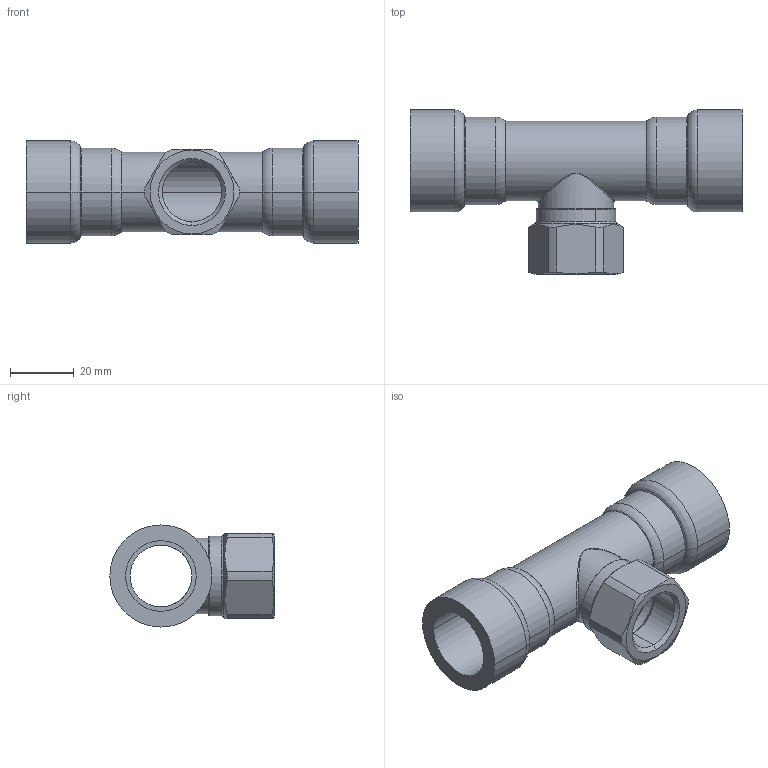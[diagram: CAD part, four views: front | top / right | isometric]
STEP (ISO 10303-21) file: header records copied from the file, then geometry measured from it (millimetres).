
FILE_DESCRIPTION(('Creo Elements/Direct Modeling STEP Export'),'2;1');
FILE_NAME('C9418_1-2_Rp1-2_1-2.stp','2020-07-15T16:16:28',(''),(''),'PTC Creo Elements/Direct Modeling STEP processor for AP214 (Solid Model)','PTC Creo Elements/Direct Modeling 19.0C 15-Aug-2015 (C) Parametric Technology GmbH','');
FILE_SCHEMA(('AUTOMOTIVE_DESIGN { 1 0 10303 214 1 1 1 1 }'));
Length unit declared in the file: millimetre
Products named in the file (2): C9418_1-2_Rp1-2_1-2
Assembly tree (1 placements, depth 2):
  C9418_1-2_Rp1-2_1-2
    C9418_1-2_Rp1-2_1-2
Bounding box: 104.4 x 51.65 x 32.1 mm (x, y, z)
Volume: 34006.8 mm3; surface area: 20852.2 mm2
Topology: 1 solids, 1 shells, 82 faces, 214 edges, 136 vertices
Faces by surface type: cylinder 32, cone 20, torus 14, plane 12, bspline 4
Entity records: 7557 total; most frequent: CARTESIAN_POINT 5652, ORIENTED_EDGE 428, DIRECTION 358, EDGE_CURVE 214, AXIS2_PLACEMENT_3D 150, VERTEX_POINT 136, EDGE_LOOP 88, FACE_OUTER_BOUND 82
